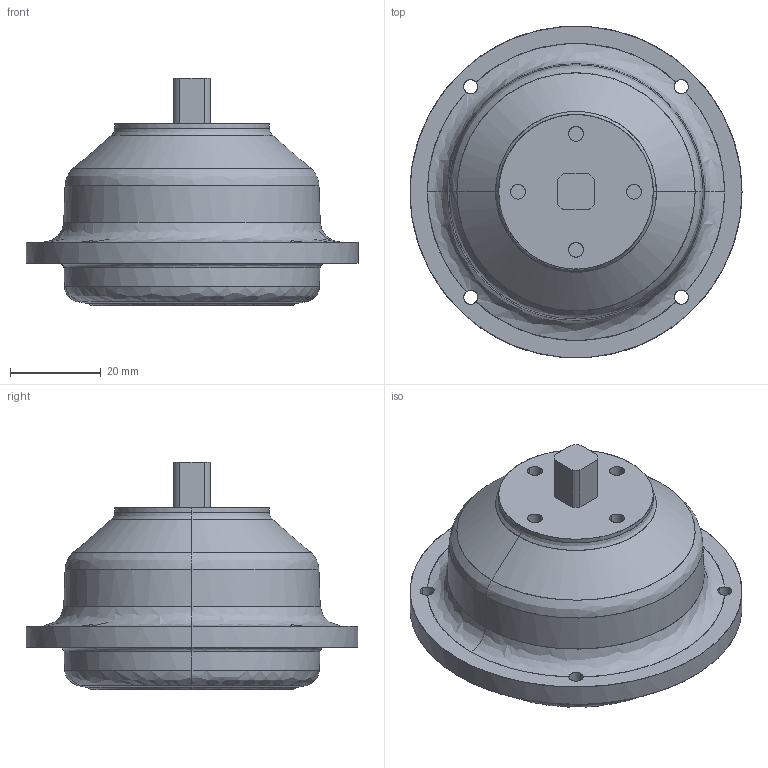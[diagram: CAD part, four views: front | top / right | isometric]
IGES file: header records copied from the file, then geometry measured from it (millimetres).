
Start section: Comment
Global section: file name: 024-020 024-030.igs; native system:  By UGS Corp.; preprocessor: XPlus GENERIC/IGES 3.0; author: Author; organization: Title; date: 20100308.144359; units: millimetre
Bounding box: 73 x 72.85 x 50 mm (x, y, z)
Surface area: 15007.9 mm2 (no closed solid volume)
Topology: 0 solids, 0 shells, 74 faces, 348 edges, 348 vertices
Faces by surface type: bspline 74
